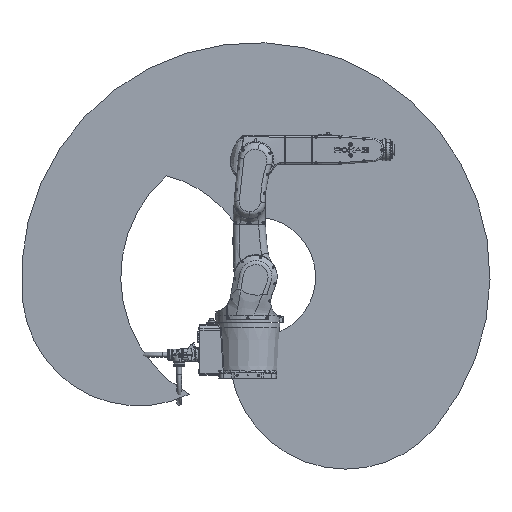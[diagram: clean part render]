
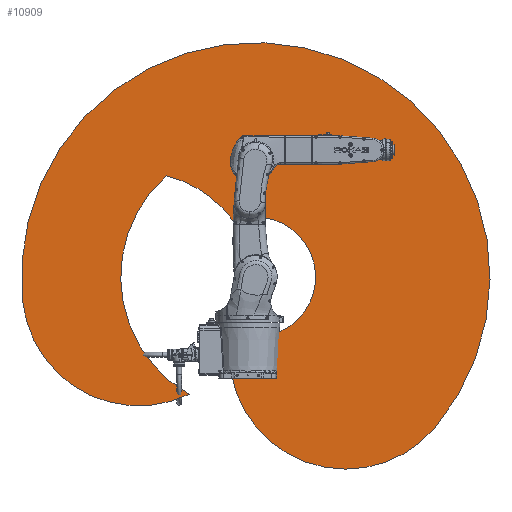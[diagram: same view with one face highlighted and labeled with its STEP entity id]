
A CAD part, front view. The second image highlights one B-rep face of the part: STEP entity #10909.
In plain terms, the highlighted planar face has unit normal (0, -1, 0).
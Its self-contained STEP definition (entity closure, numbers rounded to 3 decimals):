
#7157=FACE_OUTER_BOUND('',#26202,.T.);
#10909=ADVANCED_FACE('',(#7157),#12126,.T.);
#12126=PLANE('',#65749);
#26202=EDGE_LOOP('',(#43401,#43402,#43403,#43404,#43405,#43406));
#43401=ORIENTED_EDGE('',*,*,#57407,.T.);
#43402=ORIENTED_EDGE('',*,*,#57408,.T.);
#43403=ORIENTED_EDGE('',*,*,#57409,.T.);
#43404=ORIENTED_EDGE('',*,*,#57410,.T.);
#43405=ORIENTED_EDGE('',*,*,#57411,.T.);
#43406=ORIENTED_EDGE('',*,*,#57412,.T.);
#48802=VERTEX_POINT('',#169268);
#48803=VERTEX_POINT('',#169269);
#48804=VERTEX_POINT('',#169271);
#48805=VERTEX_POINT('',#169273);
#48806=VERTEX_POINT('',#169275);
#48807=VERTEX_POINT('',#169277);
#57407=EDGE_CURVE('',#48802,#48803,#60184,.T.);
#57408=EDGE_CURVE('',#48803,#48804,#60185,.T.);
#57409=EDGE_CURVE('',#48804,#48805,#60186,.T.);
#57410=EDGE_CURVE('',#48805,#48806,#60187,.T.);
#57411=EDGE_CURVE('',#48806,#48807,#60188,.T.);
#57412=EDGE_CURVE('',#48807,#48802,#60189,.T.);
#60184=CIRCLE('',#65743,223.902);
#60185=CIRCLE('',#65744,436.406);
#60186=CIRCLE('',#65745,876.406);
#60187=CIRCLE('',#65746,436.406);
#60188=CIRCLE('',#65747,505.197);
#60189=CIRCLE('',#65748,436.406);
#65743=AXIS2_PLACEMENT_3D('',#169267,#79929,#79930);
#65744=AXIS2_PLACEMENT_3D('',#169270,#79931,#79932);
#65745=AXIS2_PLACEMENT_3D('',#169272,#79933,#79934);
#65746=AXIS2_PLACEMENT_3D('',#169274,#79935,#79936);
#65747=AXIS2_PLACEMENT_3D('',#169276,#79937,#79938);
#65748=AXIS2_PLACEMENT_3D('',#169278,#79939,#79940);
#65749=AXIS2_PLACEMENT_3D('',#169279,#79941,#79942);
#79929=DIRECTION('',(0.,1.,0.));
#79930=DIRECTION('',(1.,0.,0.));
#79931=DIRECTION('',(0.,-1.,0.));
#79932=DIRECTION('',(1.,0.,0.));
#79933=DIRECTION('',(0.,-1.,0.));
#79934=DIRECTION('',(1.,0.,0.));
#79935=DIRECTION('',(0.,-1.,0.));
#79936=DIRECTION('',(1.,0.,0.));
#79937=DIRECTION('',(0.,1.,0.));
#79938=DIRECTION('',(1.,0.,0.));
#79939=DIRECTION('',(0.,1.,0.));
#79940=DIRECTION('',(1.,0.,0.));
#79941=DIRECTION('',(0.,-1.,0.));
#79942=DIRECTION('',(0.,0.,-1.));
#169267=CARTESIAN_POINT('',(7411.902,613.727,0.));
#169268=CARTESIAN_POINT('',(7329.154,613.727,208.05));
#169269=CARTESIAN_POINT('',(7319.725,613.727,-204.048));
#169270=CARTESIAN_POINT('',(7748.961,613.727,-282.827));
#169271=CARTESIAN_POINT('',(8083.268,613.727,-563.343));
#169272=CARTESIAN_POINT('',(7411.902,613.727,0.));
#169273=CARTESIAN_POINT('',(6540.297,613.727,-91.609));
#169274=CARTESIAN_POINT('',(6974.312,613.727,-45.993));
#169275=CARTESIAN_POINT('',(7162.877,613.727,-439.557));
#169276=CARTESIAN_POINT('',(7411.902,613.727,0.));
#169277=CARTESIAN_POINT('',(7076.93,613.727,378.177));
#169278=CARTESIAN_POINT('',(6974.312,613.727,-45.993));
#169279=CARTESIAN_POINT('',(7193.107,613.727,-22.996));
